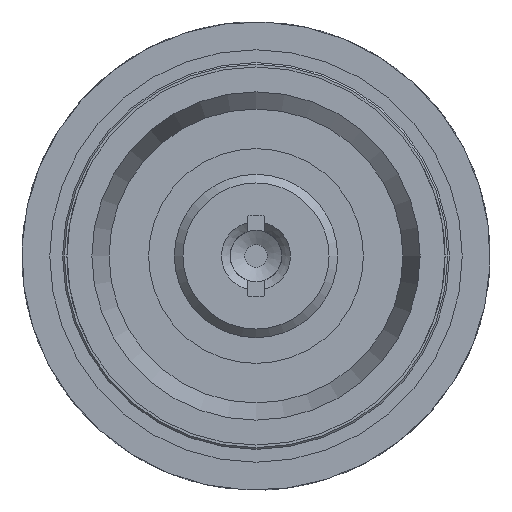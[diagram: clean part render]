
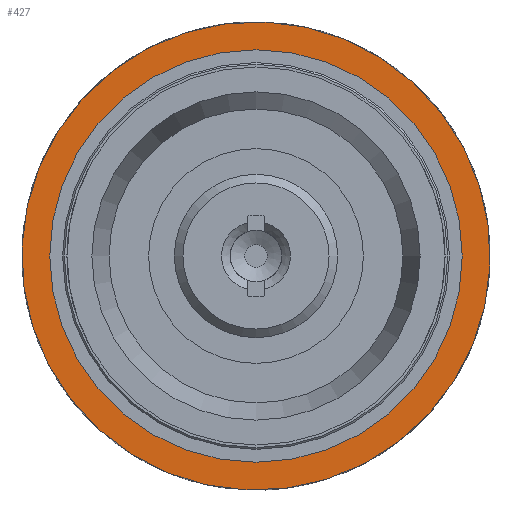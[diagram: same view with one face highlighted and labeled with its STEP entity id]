
A CAD part, left-side view. The second image highlights one B-rep face of the part: STEP entity #427.
In plain terms, the highlighted planar face has unit normal (-1, 0, 0).
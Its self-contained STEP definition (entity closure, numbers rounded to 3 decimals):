
#301=FACE_BOUND('',#734,.T.);
#302=FACE_BOUND('',#735,.T.);
#427=ADVANCED_FACE('',(#301,#302),#557,.T.);
#557=PLANE('',#2376);
#734=EDGE_LOOP('',(#1242));
#735=EDGE_LOOP('',(#1243));
#1242=ORIENTED_EDGE('',*,*,#2017,.F.);
#1243=ORIENTED_EDGE('',*,*,#2018,.T.);
#1781=VERTEX_POINT('',#3666);
#1782=VERTEX_POINT('',#3668);
#2017=EDGE_CURVE('',#1781,#1781,#2200,.T.);
#2018=EDGE_CURVE('',#1782,#1782,#2201,.T.);
#2200=CIRCLE('',#2374,2.);
#2201=CIRCLE('',#2375,2.725);
#2374=AXIS2_PLACEMENT_3D('',#3665,#2791,#2792);
#2375=AXIS2_PLACEMENT_3D('',#3667,#2793,#2794);
#2376=AXIS2_PLACEMENT_3D('',#3669,#2795,#2796);
#2791=DIRECTION('',(-1.,0.,0.));
#2792=DIRECTION('',(0.,-0.924,-0.382));
#2793=DIRECTION('',(-1.,0.,0.));
#2794=DIRECTION('',(0.,-0.924,-0.382));
#2795=DIRECTION('',(-1.,0.,0.));
#2796=DIRECTION('',(0.,-0.924,-0.382));
#3665=CARTESIAN_POINT('',(24.2,0.,0.));
#3666=CARTESIAN_POINT('',(24.2,-1.848,-0.764));
#3667=CARTESIAN_POINT('',(24.2,0.,0.));
#3668=CARTESIAN_POINT('',(24.2,-2.519,-1.041));
#3669=CARTESIAN_POINT('',(24.2,0.764,-1.848));
